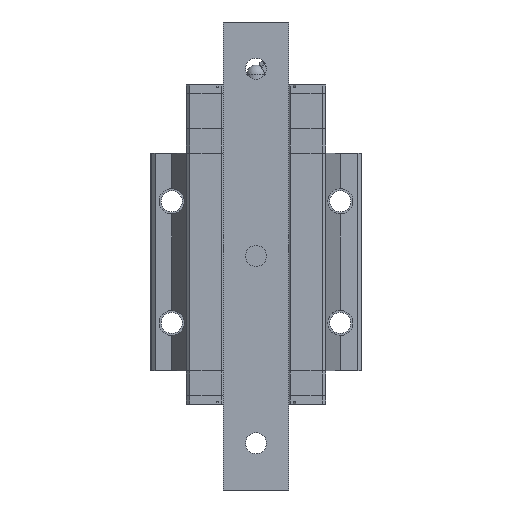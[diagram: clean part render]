
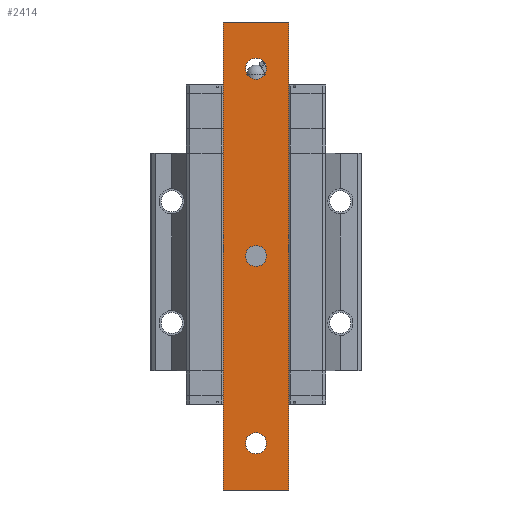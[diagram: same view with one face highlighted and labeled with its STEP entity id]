
A CAD part, front view. The second image highlights one B-rep face of the part: STEP entity #2414.
In plain terms, the highlighted planar face has unit normal (0, -1, 0).
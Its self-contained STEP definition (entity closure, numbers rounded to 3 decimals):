
#56 = VECTOR ( 'NONE', #27754, 1000. ) ;
#750 = CARTESIAN_POINT ( 'NONE',  ( -14., -5.5, -100. ) ) ;
#1054 = VERTEX_POINT ( 'NONE', #13318 ) ;
#1512 = PLANE ( 'NONE',  #24027 ) ;
#1663 = EDGE_CURVE ( 'NONE', #16533, #24077, #4211, .T. ) ;
#1958 = EDGE_CURVE ( 'NONE', #4712, #24445, #26071, .T. ) ;
#2340 = DIRECTION ( 'NONE',  ( 1., 0., 0. ) ) ;
#2414 = ADVANCED_FACE ( 'NONE', ( #4526, #25664, #22209, #9165 ), #1512, .T. ) ;
#2447 = CARTESIAN_POINT ( 'NONE',  ( 0., -5.5, -80. ) ) ;
#2597 = DIRECTION ( 'NONE',  ( 0., 0., 1. ) ) ;
#3738 = AXIS2_PLACEMENT_3D ( 'NONE', #25385, #22985, #8246 ) ;
#4114 = ORIENTED_EDGE ( 'NONE', *, *, #18536, .T. ) ;
#4211 = LINE ( 'NONE', #750, #56 ) ;
#4526 = FACE_BOUND ( 'NONE', #12119, .T. ) ;
#4601 = DIRECTION ( 'NONE',  ( 0., 1., 0. ) ) ;
#4712 = VERTEX_POINT ( 'NONE', #11950 ) ;
#6308 = DIRECTION ( 'NONE',  ( 0., 1., 0. ) ) ;
#6454 = EDGE_CURVE ( 'NONE', #1054, #8135, #29897, .T. ) ;
#6607 = CARTESIAN_POINT ( 'NONE',  ( -14., -5.5, -100. ) ) ;
#6814 = CIRCLE ( 'NONE', #16002, 4.5 ) ;
#6994 = DIRECTION ( 'NONE',  ( 0., 1., 0. ) ) ;
#7040 = ORIENTED_EDGE ( 'NONE', *, *, #16399, .F. ) ;
#7468 = CARTESIAN_POINT ( 'NONE',  ( -14., -5.5, -100. ) ) ;
#7964 = VECTOR ( 'NONE', #10360, 1000. ) ;
#8135 = VERTEX_POINT ( 'NONE', #9730 ) ;
#8246 = DIRECTION ( 'NONE',  ( 0., 0., 1. ) ) ;
#8304 = ORIENTED_EDGE ( 'NONE', *, *, #1663, .F. ) ;
#8471 = ORIENTED_EDGE ( 'NONE', *, *, #6454, .T. ) ;
#8760 = CIRCLE ( 'NONE', #3738, 4.5 ) ;
#9165 = FACE_OUTER_BOUND ( 'NONE', #11249, .T. ) ;
#9730 = CARTESIAN_POINT ( 'NONE',  ( 0., -5.5, 4.5 ) ) ;
#9800 = VECTOR ( 'NONE', #13137, 1000. ) ;
#10157 = CARTESIAN_POINT ( 'NONE',  ( 0., -5.5, 0. ) ) ;
#10334 = CARTESIAN_POINT ( 'NONE',  ( 14., -5.5, -100. ) ) ;
#10360 = DIRECTION ( 'NONE',  ( 0., 0., 1. ) ) ;
#10409 = VERTEX_POINT ( 'NONE', #14984 ) ;
#11249 = EDGE_LOOP ( 'NONE', ( #4114, #7040, #8304, #16464 ) ) ;
#11418 = CARTESIAN_POINT ( 'NONE',  ( 14., -5.5, -100. ) ) ;
#11950 = CARTESIAN_POINT ( 'NONE',  ( 0., -5.5, -75.5 ) ) ;
#12119 = EDGE_LOOP ( 'NONE', ( #17410, #31153 ) ) ;
#12577 = CIRCLE ( 'NONE', #31741, 4.5 ) ;
#12833 = LINE ( 'NONE', #27725, #9800 ) ;
#13085 = VECTOR ( 'NONE', #19040, 1000. ) ;
#13137 = DIRECTION ( 'NONE',  ( 1., 0., 0. ) ) ;
#13318 = CARTESIAN_POINT ( 'NONE',  ( 0., -5.5, -4.5 ) ) ;
#13689 = ORIENTED_EDGE ( 'NONE', *, *, #27004, .T. ) ;
#14984 = CARTESIAN_POINT ( 'NONE',  ( 14., -5.5, 100. ) ) ;
#15116 = DIRECTION ( 'NONE',  ( 0., 0., 1. ) ) ;
#15125 = DIRECTION ( 'NONE',  ( 0., -1., 0. ) ) ;
#15163 = CARTESIAN_POINT ( 'NONE',  ( 0., -5.5, 75.5 ) ) ;
#16002 = AXIS2_PLACEMENT_3D ( 'NONE', #21551, #6994, #16847 ) ;
#16399 = EDGE_CURVE ( 'NONE', #24077, #10409, #12833, .T. ) ;
#16464 = ORIENTED_EDGE ( 'NONE', *, *, #25228, .T. ) ;
#16533 = VERTEX_POINT ( 'NONE', #7468 ) ;
#16638 = EDGE_LOOP ( 'NONE', ( #27376, #8471 ) ) ;
#16847 = DIRECTION ( 'NONE',  ( 0., 0., 1. ) ) ;
#17244 = LINE ( 'NONE', #11418, #7964 ) ;
#17410 = ORIENTED_EDGE ( 'NONE', *, *, #1958, .T. ) ;
#18373 = VERTEX_POINT ( 'NONE', #23266 ) ;
#18536 = EDGE_CURVE ( 'NONE', #27139, #10409, #17244, .T. ) ;
#18642 = CIRCLE ( 'NONE', #28252, 4.5 ) ;
#18981 = EDGE_LOOP ( 'NONE', ( #13689, #21749 ) ) ;
#19040 = DIRECTION ( 'NONE',  ( 1., 0., 0. ) ) ;
#19478 = VERTEX_POINT ( 'NONE', #15163 ) ;
#20684 = EDGE_CURVE ( 'NONE', #19478, #18373, #8760, .T. ) ;
#20951 = CARTESIAN_POINT ( 'NONE',  ( -14., -5.5, 100. ) ) ;
#21260 = DIRECTION ( 'NONE',  ( 0., 0., 1. ) ) ;
#21276 = AXIS2_PLACEMENT_3D ( 'NONE', #10157, #29733, #2597 ) ;
#21348 = DIRECTION ( 'NONE',  ( 0., 0., 1. ) ) ;
#21551 = CARTESIAN_POINT ( 'NONE',  ( 0., -5.5, 0. ) ) ;
#21659 = CARTESIAN_POINT ( 'NONE',  ( -14., -5.5, -100. ) ) ;
#21749 = ORIENTED_EDGE ( 'NONE', *, *, #20684, .T. ) ;
#22209 = FACE_BOUND ( 'NONE', #18981, .T. ) ;
#22822 = EDGE_CURVE ( 'NONE', #24445, #4712, #18642, .T. ) ;
#22985 = DIRECTION ( 'NONE',  ( 0., 1., 0. ) ) ;
#23266 = CARTESIAN_POINT ( 'NONE',  ( 0., -5.5, 84.5 ) ) ;
#23632 = CARTESIAN_POINT ( 'NONE',  ( 0., -5.5, -80. ) ) ;
#24027 = AXIS2_PLACEMENT_3D ( 'NONE', #21659, #15125, #2340 ) ;
#24077 = VERTEX_POINT ( 'NONE', #20951 ) ;
#24445 = VERTEX_POINT ( 'NONE', #25011 ) ;
#25011 = CARTESIAN_POINT ( 'NONE',  ( 0., -5.5, -84.5 ) ) ;
#25228 = EDGE_CURVE ( 'NONE', #16533, #27139, #30764, .T. ) ;
#25385 = CARTESIAN_POINT ( 'NONE',  ( 0., -5.5, 80. ) ) ;
#25664 = FACE_BOUND ( 'NONE', #16638, .T. ) ;
#26071 = CIRCLE ( 'NONE', #27487, 4.5 ) ;
#27004 = EDGE_CURVE ( 'NONE', #18373, #19478, #12577, .T. ) ;
#27139 = VERTEX_POINT ( 'NONE', #10334 ) ;
#27319 = DIRECTION ( 'NONE',  ( 0., 1., 0. ) ) ;
#27376 = ORIENTED_EDGE ( 'NONE', *, *, #30085, .T. ) ;
#27487 = AXIS2_PLACEMENT_3D ( 'NONE', #2447, #27319, #15116 ) ;
#27725 = CARTESIAN_POINT ( 'NONE',  ( -14., -5.5, 100. ) ) ;
#27754 = DIRECTION ( 'NONE',  ( 0., 0., 1. ) ) ;
#28252 = AXIS2_PLACEMENT_3D ( 'NONE', #23632, #6308, #21260 ) ;
#29733 = DIRECTION ( 'NONE',  ( 0., 1., 0. ) ) ;
#29897 = CIRCLE ( 'NONE', #21276, 4.5 ) ;
#30085 = EDGE_CURVE ( 'NONE', #8135, #1054, #6814, .T. ) ;
#30764 = LINE ( 'NONE', #6607, #13085 ) ;
#31153 = ORIENTED_EDGE ( 'NONE', *, *, #22822, .T. ) ;
#31575 = CARTESIAN_POINT ( 'NONE',  ( 0., -5.5, 80. ) ) ;
#31741 = AXIS2_PLACEMENT_3D ( 'NONE', #31575, #4601, #21348 ) ;
